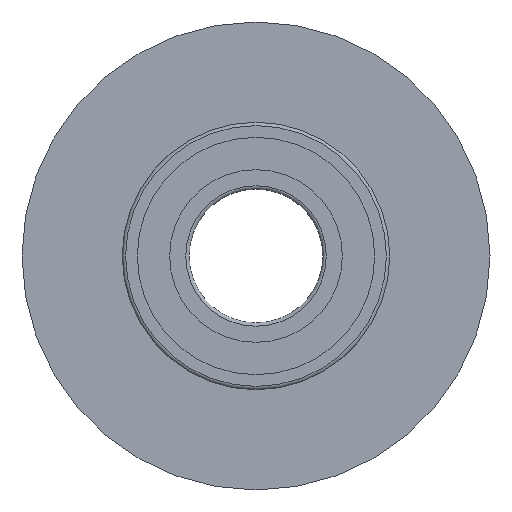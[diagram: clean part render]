
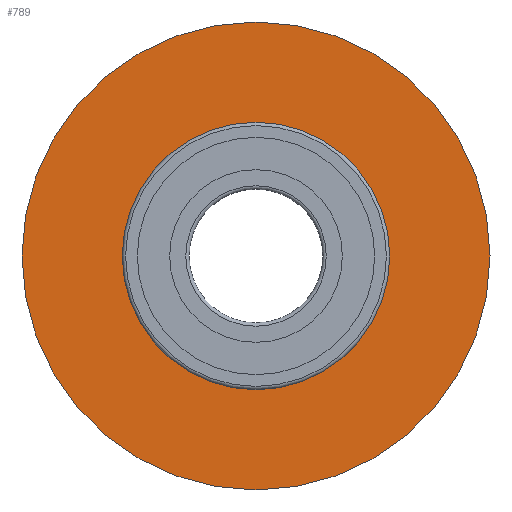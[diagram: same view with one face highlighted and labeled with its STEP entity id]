
A CAD part, left-side view. The second image highlights one B-rep face of the part: STEP entity #789.
In plain terms, the highlighted planar face has unit normal (-1, 0, 0).
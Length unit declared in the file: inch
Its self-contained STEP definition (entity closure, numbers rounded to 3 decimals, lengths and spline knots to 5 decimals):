
#762=CARTESIAN_POINT('',(113.41139,122.97152,0.));
#763=VERTEX_POINT('',#762);
#764=CARTESIAN_POINT('',(113.41139,112.47152,0.));
#765=DIRECTION('',(1.,0.,0.));
#766=DIRECTION('',(0.,1.,0.));
#767=AXIS2_PLACEMENT_3D('',#764,#765,#766);
#768=CIRCLE('',#767,10.5);
#769=EDGE_CURVE('',#763,#763,#768,.T.);
#770=ORIENTED_EDGE('',*,*,#769,.F.);
#771=EDGE_LOOP('',(#770));
#772=FACE_OUTER_BOUND('',#771,.T.);
#773=CARTESIAN_POINT('',(113.41139,118.47152,0.));
#774=VERTEX_POINT('',#773);
#775=CARTESIAN_POINT('',(113.41139,112.47152,0.));
#776=DIRECTION('',(1.,0.,0.));
#777=DIRECTION('',(0.,1.,0.));
#778=AXIS2_PLACEMENT_3D('',#775,#776,#777);
#779=CIRCLE('',#778,6.);
#780=EDGE_CURVE('',#774,#774,#779,.T.);
#781=ORIENTED_EDGE('',*,*,#780,.T.);
#782=EDGE_LOOP('',(#781));
#783=FACE_BOUND('',#782,.T.);
#784=CARTESIAN_POINT('',(113.41139,120.72152,0.));
#785=DIRECTION('',(-1.,0.,0.));
#786=DIRECTION('',(0.,-1.,0.));
#787=AXIS2_PLACEMENT_3D('',#784,#785,#786);
#788=PLANE('',#787);
#789=ADVANCED_FACE('',(#772,#783),#788,.T.);
